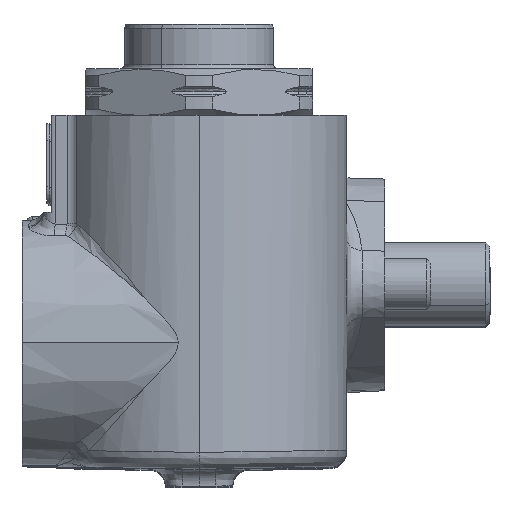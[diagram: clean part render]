
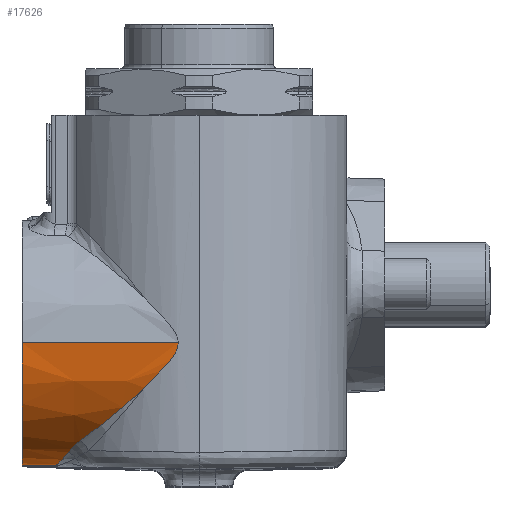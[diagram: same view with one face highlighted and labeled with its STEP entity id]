
A CAD part, top view. The second image highlights one B-rep face of the part: STEP entity #17626.
In plain terms, the highlighted conical face has half-angle 1 degrees and reference radius 14.5 mm.
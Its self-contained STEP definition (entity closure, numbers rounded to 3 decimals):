
#2302 = CARTESIAN_POINT ( 'NONE',  ( 2.228, -9.501, 71.09 ) ) ;
#2320 = B_SPLINE_CURVE_WITH_KNOTS ( 'NONE', 3,
 ( #16834, #17294, #13321, #31162, #31627, #20140, #10036, #2302, #45008, #2771, #24085, #45953, #38418, #34206 ),
 .UNSPECIFIED., .F., .F.,
 ( 4, 2, 2, 2, 2, 2, 4 ),
 ( 0.023, 0.024, 0.025, 0.026, 0.026, 0.028, 0.03 ),
 .UNSPECIFIED. ) ;
#2362 = CARTESIAN_POINT ( 'NONE',  ( -9.36, -19.768, 63.595 ) ) ;
#2771 = CARTESIAN_POINT ( 'NONE',  ( 1.48, -10.346, 70.91 ) ) ;
#2830 = CARTESIAN_POINT ( 'NONE',  ( -8.055, -18.576, 65.432 ) ) ;
#3155 = CARTESIAN_POINT ( 'NONE',  ( -8.055, -18.576, 65.432 ) ) ;
#3624 = CARTESIAN_POINT ( 'NONE',  ( -7.469, -18.149, 66.002 ) ) ;
#6164 = AXIS2_PLACEMENT_3D ( 'NONE', #11429, #32557, #25709 ) ;
#6383 = CARTESIAN_POINT ( 'NONE',  ( -9.704, -20.245, 62.651 ) ) ;
#7616 = CARTESIAN_POINT ( 'NONE',  ( -0.474, -12.326, 70.259 ) ) ;
#7746 = DIRECTION ( 'NONE',  ( 1., 0., 0.017 ) ) ;
#7775 = VERTEX_POINT ( 'NONE', #10755 ) ;
#8282 = ORIENTED_EDGE ( 'NONE', *, *, #34224, .F. ) ;
#8988 = CARTESIAN_POINT ( 'NONE',  ( 3.519, -7., 71.323 ) ) ;
#9396 = CARTESIAN_POINT ( 'NONE',  ( -8.672, -19.06, 64.76 ) ) ;
#10036 = CARTESIAN_POINT ( 'NONE',  ( 2.586, -9.06, 71.165 ) ) ;
#10755 = CARTESIAN_POINT ( 'NONE',  ( -8.055, -18.576, 65.432 ) ) ;
#11262 = LINE ( 'NONE', #25079, #13471 ) ;
#11429 = CARTESIAN_POINT ( 'NONE',  ( -15., -7., 56.5 ) ) ;
#13321 = CARTESIAN_POINT ( 'NONE',  ( 3.448, -7.576, 71.313 ) ) ;
#13377 = ORIENTED_EDGE ( 'NONE', *, *, #16370, .F. ) ;
#13425 = CARTESIAN_POINT ( 'NONE',  ( -10.678, -21.297, 59.395 ) ) ;
#13471 = VECTOR ( 'NONE', #7746, 1000. ) ;
#13897 = CARTESIAN_POINT ( 'NONE',  ( -9.52, -19.989, 63.157 ) ) ;
#13957 = CARTESIAN_POINT ( 'NONE',  ( -5.619, -16.739, 67.483 ) ) ;
#14202 = CARTESIAN_POINT ( 'NONE',  ( -1.754, -13.532, 69.72 ) ) ;
#14208 = CARTESIAN_POINT ( 'NONE',  ( -11.198, -21.566, 56.5 ) ) ;
#14337 = B_SPLINE_CURVE_WITH_KNOTS ( 'NONE', 3,
 ( #20202, #2362, #41529, #9396, #23675, #2830 ),
 .UNSPECIFIED., .F., .F.,
 ( 4, 2, 4 ),
 ( 0., 0.002, 0.003 ),
 .UNSPECIFIED. ) ;
#15828 = EDGE_CURVE ( 'NONE', #26514, #23524, #41174, .T. ) ;
#16370 = EDGE_CURVE ( 'NONE', #26514, #30399, #11262, .T. ) ;
#16834 = CARTESIAN_POINT ( 'NONE',  ( 3.519, -7., 71.323 ) ) ;
#17294 = CARTESIAN_POINT ( 'NONE',  ( 3.519, -7.29, 71.323 ) ) ;
#17626 = ADVANCED_FACE ( 'NONE', ( #28817 ), #19619, .T. ) ;
#17804 = EDGE_LOOP ( 'NONE', ( #13377, #18044, #20275, #36601, #45965, #31569, #8282 ) ) ;
#17906 = AXIS2_PLACEMENT_3D ( 'NONE', #28122, #46446, #31418 ) ;
#18044 = ORIENTED_EDGE ( 'NONE', *, *, #15828, .T. ) ;
#18286 = LINE ( 'NONE', #32392, #44674 ) ;
#19379 = VERTEX_POINT ( 'NONE', #41156 ) ;
#19619 = CONICAL_SURFACE ( 'NONE', #6164, 14.5, 0.017 ) ;
#20140 = CARTESIAN_POINT ( 'NONE',  ( 2.76, -8.831, 71.198 ) ) ;
#20202 = CARTESIAN_POINT ( 'NONE',  ( -9.52, -19.989, 63.157 ) ) ;
#20275 = ORIENTED_EDGE ( 'NONE', *, *, #21327, .F. ) ;
#20937 = CARTESIAN_POINT ( 'NONE',  ( -11.198, -21.566, 56.5 ) ) ;
#21327 = EDGE_CURVE ( 'NONE', #39518, #23524, #18286, .T. ) ;
#21613 = DIRECTION ( 'NONE',  ( -1., 0.017, 0. ) ) ;
#21868 = VERTEX_POINT ( 'NONE', #31441 ) ;
#23524 = VERTEX_POINT ( 'NONE', #27772 ) ;
#23675 = CARTESIAN_POINT ( 'NONE',  ( -8.383, -18.815, 65.113 ) ) ;
#24085 = CARTESIAN_POINT ( 'NONE',  ( 1.093, -10.752, 70.803 ) ) ;
#25079 = CARTESIAN_POINT ( 'NONE',  ( -15., -7., 71. ) ) ;
#25555 = EDGE_CURVE ( 'NONE', #39518, #19379, #28003, .T. ) ;
#25709 = DIRECTION ( 'NONE',  ( 0., 0., 1. ) ) ;
#26514 = VERTEX_POINT ( 'NONE', #34166 ) ;
#27772 = CARTESIAN_POINT ( 'NONE',  ( -15., -21.5, 56.5 ) ) ;
#28003 = B_SPLINE_CURVE_WITH_KNOTS ( 'NONE', 3,
 ( #20937, #31510, #34307, #46058, #13425, #35262, #28226, #42280, #6383, #13897 ),
 .UNSPECIFIED., .F., .F.,
 ( 4, 2, 2, 2, 4 ),
 ( 0., 0.002, 0.004, 0.005, 0.007 ),
 .UNSPECIFIED. ) ;
#28122 = CARTESIAN_POINT ( 'NONE',  ( -15., -7., 56.5 ) ) ;
#28226 = CARTESIAN_POINT ( 'NONE',  ( -10.236, -20.861, 61.068 ) ) ;
#28519 = CARTESIAN_POINT ( 'NONE',  ( -3.048, -14.656, 69.076 ) ) ;
#28817 = FACE_OUTER_BOUND ( 'NONE', #17804, .T. ) ;
#30399 = VERTEX_POINT ( 'NONE', #8988 ) ;
#31162 = CARTESIAN_POINT ( 'NONE',  ( 3.225, -8.108, 71.279 ) ) ;
#31418 = DIRECTION ( 'NONE',  ( 0., 0., -1. ) ) ;
#31441 = CARTESIAN_POINT ( 'NONE',  ( -0.474, -12.326, 70.259 ) ) ;
#31510 = CARTESIAN_POINT ( 'NONE',  ( -11.103, -21.568, 57.088 ) ) ;
#31569 = ORIENTED_EDGE ( 'NONE', *, *, #36801, .T. ) ;
#31627 = CARTESIAN_POINT ( 'NONE',  ( 3.08, -8.355, 71.255 ) ) ;
#31998 = CARTESIAN_POINT ( 'NONE',  ( -6.863, -17.695, 66.523 ) ) ;
#32392 = CARTESIAN_POINT ( 'NONE',  ( -17., -21.465, 56.5 ) ) ;
#32454 = CARTESIAN_POINT ( 'NONE',  ( -3.695, -15.195, 68.718 ) ) ;
#32557 = DIRECTION ( 'NONE',  ( 1., 0., 0. ) ) ;
#34166 = CARTESIAN_POINT ( 'NONE',  ( -15., -7., 71. ) ) ;
#34206 = CARTESIAN_POINT ( 'NONE',  ( -0.474, -12.326, 70.259 ) ) ;
#34224 = EDGE_CURVE ( 'NONE', #30399, #21868, #2320, .T. ) ;
#34307 = CARTESIAN_POINT ( 'NONE',  ( -11.01, -21.534, 57.672 ) ) ;
#35262 = CARTESIAN_POINT ( 'NONE',  ( -10.396, -21.028, 60.517 ) ) ;
#35307 = CARTESIAN_POINT ( 'NONE',  ( -1.107, -12.947, 70.006 ) ) ;
#36601 = ORIENTED_EDGE ( 'NONE', *, *, #25555, .T. ) ;
#36801 = EDGE_CURVE ( 'NONE', #7775, #21868, #42019, .T. ) ;
#38418 = CARTESIAN_POINT ( 'NONE',  ( -0.08, -11.94, 70.415 ) ) ;
#39499 = CARTESIAN_POINT ( 'NONE',  ( -4.98, -16.236, 67.923 ) ) ;
#39518 = VERTEX_POINT ( 'NONE', #14208 ) ;
#41156 = CARTESIAN_POINT ( 'NONE',  ( -9.52, -19.989, 63.157 ) ) ;
#41166 = EDGE_CURVE ( 'NONE', #19379, #7775, #14337, .T. ) ;
#41174 = CIRCLE ( 'NONE', #17906, 14.5 ) ;
#41529 = CARTESIAN_POINT ( 'NONE',  ( -9.159, -19.535, 64.002 ) ) ;
#42019 = B_SPLINE_CURVE_WITH_KNOTS ( 'NONE', 3,
 ( #3155, #3624, #31998, #13957, #39499, #32454, #28519, #14202, #35307, #7616 ),
 .UNSPECIFIED., .F., .F.,
 ( 4, 2, 2, 2, 4 ),
 ( 0., 0.003, 0.006, 0.008, 0.011 ),
 .UNSPECIFIED. ) ;
#42280 = CARTESIAN_POINT ( 'NONE',  ( -9.89, -20.47, 62.134 ) ) ;
#44674 = VECTOR ( 'NONE', #21613, 1000. ) ;
#45008 = CARTESIAN_POINT ( 'NONE',  ( 2.043, -9.715, 71.048 ) ) ;
#45953 = CARTESIAN_POINT ( 'NONE',  ( 0.313, -11.549, 70.555 ) ) ;
#45965 = ORIENTED_EDGE ( 'NONE', *, *, #41166, .T. ) ;
#46058 = CARTESIAN_POINT ( 'NONE',  ( -10.798, -21.398, 58.826 ) ) ;
#46446 = DIRECTION ( 'NONE',  ( 1., 0., 0. ) ) ;
